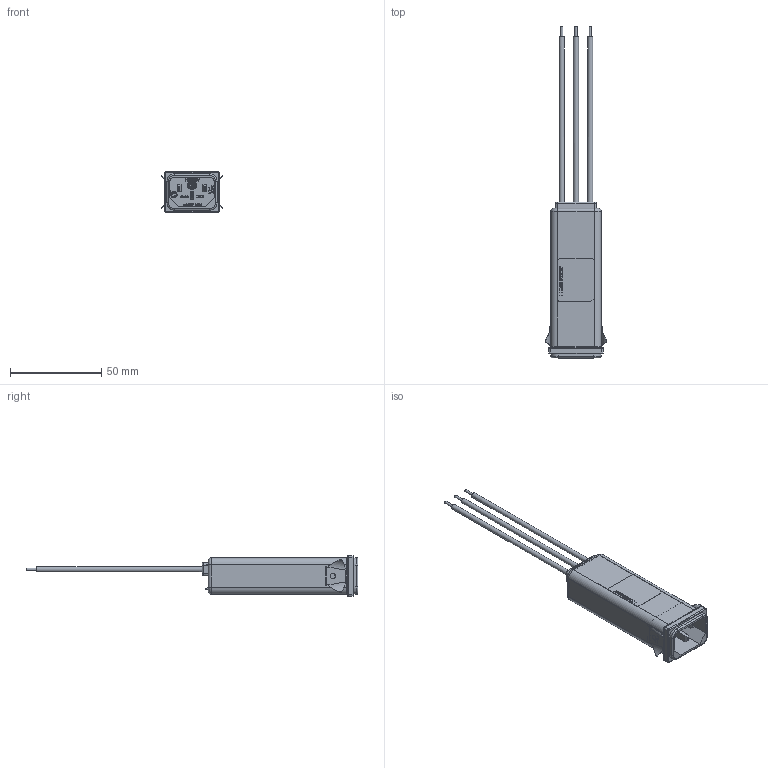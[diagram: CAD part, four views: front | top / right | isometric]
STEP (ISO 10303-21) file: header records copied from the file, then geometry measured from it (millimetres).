
FILE_DESCRIPTION(/* description */ ('naming raw material'),/* implementation_level */ '2;1');
FILE_NAME(/* name */ 'C:\SapWorkDir\Inventor\P01\ConvertTempPath\193015_IPT_000.ipt.stp',/* time_stamp */ '2018-07-03T10:17:53+07:00',/* author */ ('Eakchai.Yodchai'),/* organization */ ('Schaffner Thailand Ltd.'),/* preprocessor_version */ 'ST-DEVELOPER v16.5',/* originating_system */ 'Autodesk Inventor 2017',/* authorisation */ '');
FILE_SCHEMA (('AUTOMOTIVE_DESIGN { 1 0 10303 214 3 1 1 }'));
Products named in the file (1): 193015_IPT_000
Bounding box: 33.84 x 182 x 22.4 mm (x, y, z)
Volume: 14360.6 mm3; surface area: 33642.6 mm2
Topology: 1 solids, 5 shells, 1899 faces, 5295 edges, 3453 vertices
Faces by surface type: plane 1319, bspline 360, cylinder 181, torus 35, cone 4
Full cylindrical faces by diameter (mm): 1.28 x15, 2 x4, 2.8 x3, 3 x2, 3.15 x1, 3.2 x3, 3.5 x1
Entity records: 64787 total; most frequent: CARTESIAN_POINT 16261, ORIENTED_EDGE 10464, DIRECTION 8116, EDGE_CURVE 5230, LINE 4022, VECTOR 4022, VERTEX_POINT 3438, EDGE_LOOP 2090
